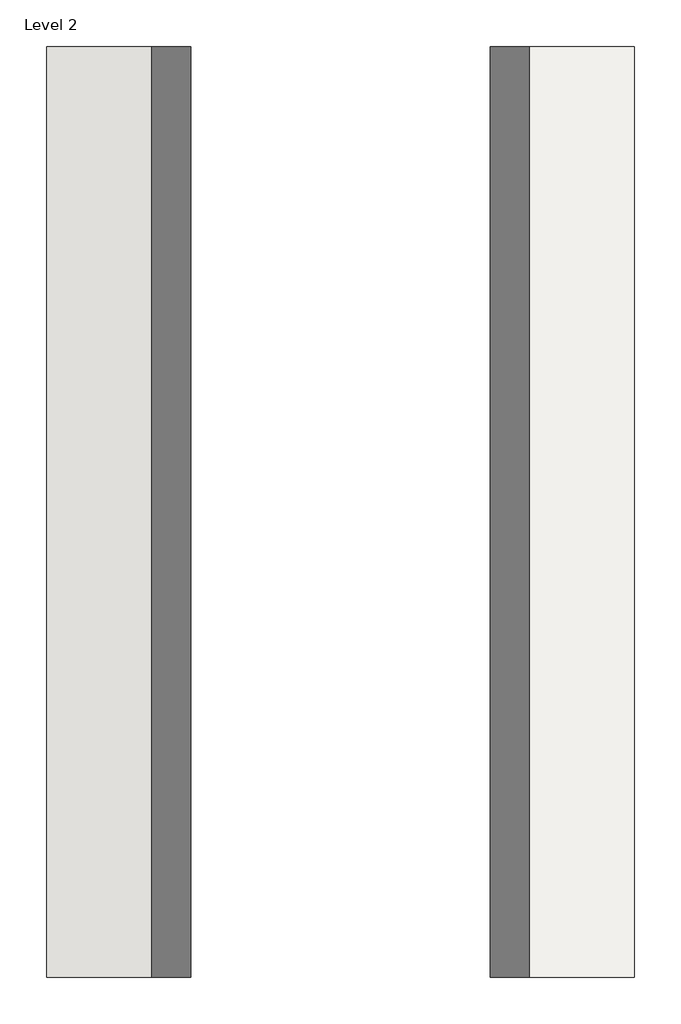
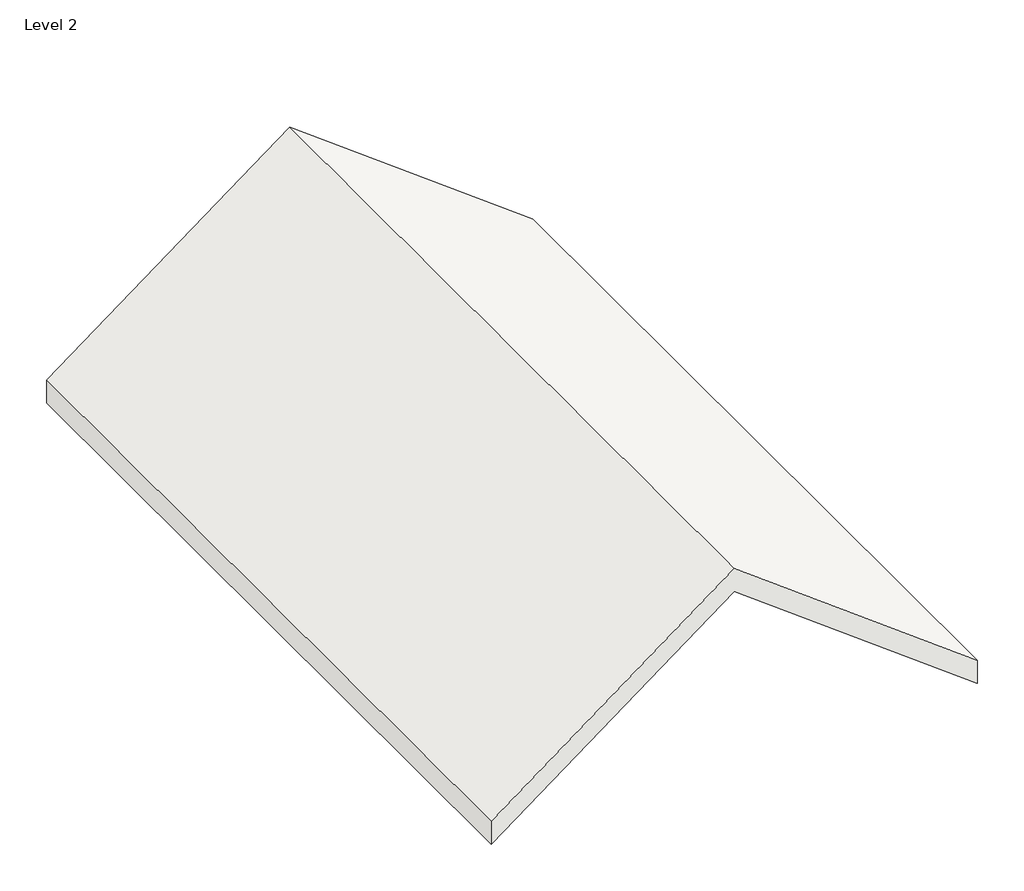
# One storey: 1 roof.
"""IFC4 building model written with IfcOpenShell, lengths in millimetres."""

from ifc_helpers import new_model, si_unit, frame, origin, place, context, project, spatial, polyline, outline, extrude, element, save

model = new_model("IFC4")

# Units and contexts
model_context = context("Model", 3, world=origin())
ifc_project = project(units=[si_unit("LENGTHUNIT", "METRE", prefix="MILLI")], contexts=[model_context])

# Site, building, storey
site = spatial("IfcSite", under=ifc_project)
building = spatial("IfcBuilding", under=site)
storey = spatial("IfcBuildingStorey", under=building, Name="Level 2", Elevation=3048.0)

# Roof
placement = place(None, origin())
element("IfcRoof", 1, ObjectType="Generic - 12\"", at=placement, inside=storey, context=model_context, shape_type="SweptSolid", body=[
    extrude(outline(polyline([(3238.5, -822.7216569), (6076.95, -4607.3216569), (3238.5, -8391.9216569), (2857.5, -8391.9216569), (5695.95, -4607.3216569), (2857.5, -822.7216569), (3238.5, -822.7216569)])), frame((0.0, -1025.9252952, 0.0), z_axis=(0.0, 1.0, 0.0), x_axis=(0.0, 0.0, 1.0)), (0.0, 0.0, 1.0), 11988.8),
])

save(model, "model.ifc")
